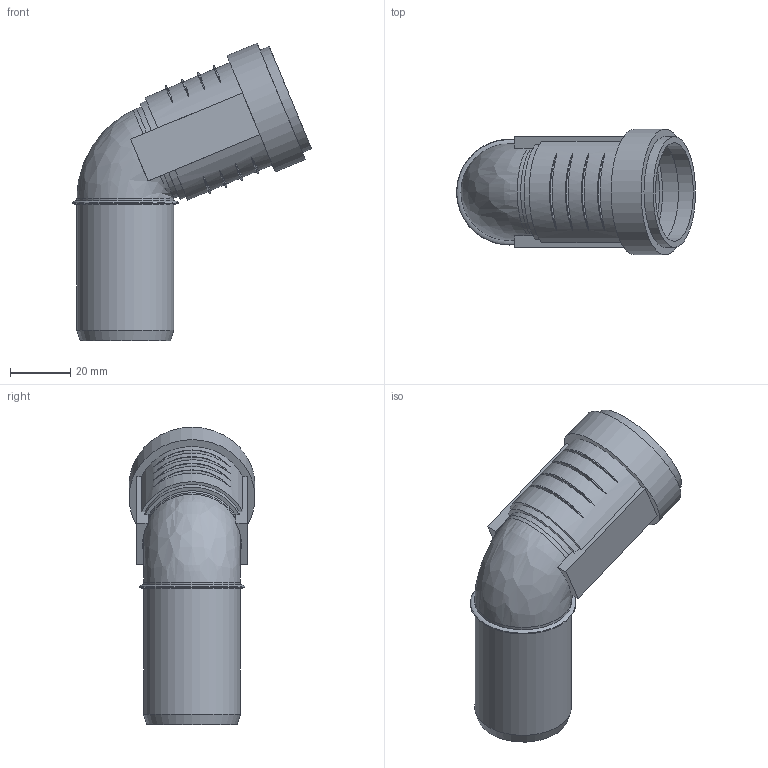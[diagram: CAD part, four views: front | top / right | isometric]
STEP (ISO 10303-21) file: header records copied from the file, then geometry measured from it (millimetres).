
FILE_DESCRIPTION(/* description */ (''),/* implementation_level */ '2;1');
FILE_NAME(/* name */ 'Z:\Geberit\Export\NewStep\390023.stp',/* time_stamp */ '2014-04-02T08:08:10+02:00',/* author */ ('ML'),/* organization */ (''),/* preprocessor_version */ 'ST-DEVELOPER v15.2',/* originating_system */ 'Autodesk Inventor 2014',/* authorisation */ '');
FILE_SCHEMA (('AUTOMOTIVE_DESIGN { 1 0 10303 214 3 1 1 }'));
Length unit declared in the file: millimetre
Products named in the file (3): 861579; 861632; 390023
Bounding box: 79.42 x 41.8 x 98.89 mm (x, y, z)
Volume: 26918.9 mm3; surface area: 27307.2 mm2
Topology: 2 solids, 2 shells, 68 faces, 162 edges, 109 vertices
Faces by surface type: torus 28, plane 19, cylinder 18, cone 2, bspline 1
Full cylindrical faces by diameter (mm): 28.15 x3, 32.15 x4, 32.8 x2, 36.8 x1, 37.8 x1, 41.8 x1
Entity records: 2662 total; most frequent: CARTESIAN_POINT 1086, DIRECTION 290, ORIENTED_EDGE 278, EDGE_CURVE 139, AXIS2_PLACEMENT_3D 127, VERTEX_POINT 106, EDGE_LOOP 103, STYLED_ITEM 70
